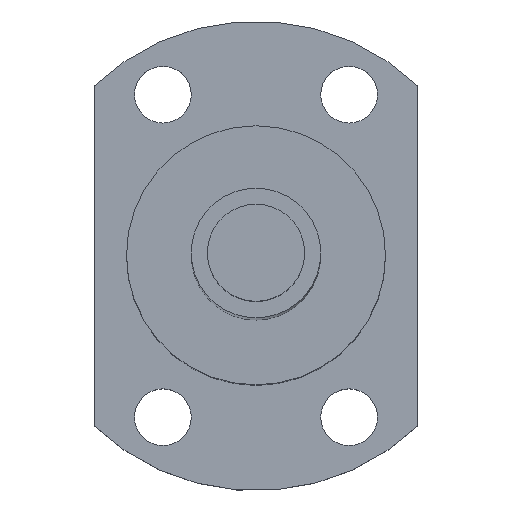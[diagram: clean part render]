
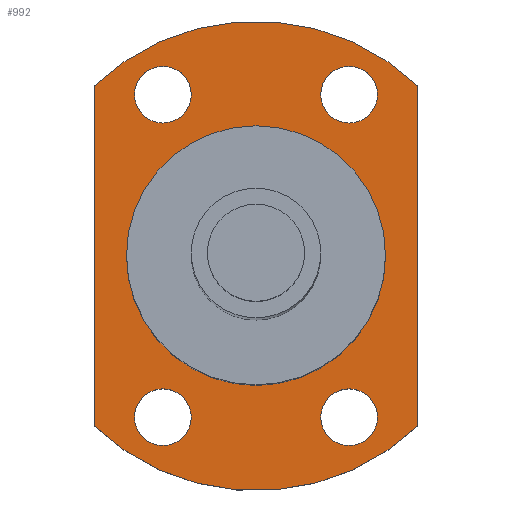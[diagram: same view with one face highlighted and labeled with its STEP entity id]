
A CAD part, top view. The second image highlights one B-rep face of the part: STEP entity #992.
In plain terms, the highlighted planar face has unit normal (0, 0, 1).
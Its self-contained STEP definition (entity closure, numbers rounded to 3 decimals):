
#219=CARTESIAN_POINT('',(5.75,9.959,135.));
#220=DIRECTION('',(0.,0.,-1.));
#221=DIRECTION('',(1.,0.,0.));
#222=AXIS2_PLACEMENT_3D('',#219,#220,#221);
#224=CARTESIAN_POINT('',(5.75,9.959,135.));
#225=DIRECTION('',(0.,0.,-1.));
#226=DIRECTION('',(-1.,0.,0.));
#227=AXIS2_PLACEMENT_3D('',#224,#225,#226);
#229=CARTESIAN_POINT('',(-5.75,9.959,135.));
#230=DIRECTION('',(0.,0.,-1.));
#231=DIRECTION('',(1.,0.,0.));
#232=AXIS2_PLACEMENT_3D('',#229,#230,#231);
#234=CARTESIAN_POINT('',(-5.75,9.959,135.));
#235=DIRECTION('',(0.,0.,-1.));
#236=DIRECTION('',(-1.,0.,0.));
#237=AXIS2_PLACEMENT_3D('',#234,#235,#236);
#239=CARTESIAN_POINT('',(5.75,-9.959,135.));
#240=DIRECTION('',(0.,0.,-1.));
#241=DIRECTION('',(1.,0.,0.));
#242=AXIS2_PLACEMENT_3D('',#239,#240,#241);
#244=CARTESIAN_POINT('',(5.75,-9.959,135.));
#245=DIRECTION('',(0.,0.,-1.));
#246=DIRECTION('',(-1.,0.,0.));
#247=AXIS2_PLACEMENT_3D('',#244,#245,#246);
#249=CARTESIAN_POINT('',(-5.75,-9.959,135.));
#250=DIRECTION('',(0.,0.,-1.));
#251=DIRECTION('',(1.,0.,0.));
#252=AXIS2_PLACEMENT_3D('',#249,#250,#251);
#254=CARTESIAN_POINT('',(-5.75,-9.959,135.));
#255=DIRECTION('',(0.,0.,-1.));
#256=DIRECTION('',(-1.,0.,0.));
#257=AXIS2_PLACEMENT_3D('',#254,#255,#256);
#259=CARTESIAN_POINT('',(0.,0.,135.));
#260=DIRECTION('',(0.,0.,1.));
#261=DIRECTION('',(0.69,0.724,0.));
#262=AXIS2_PLACEMENT_3D('',#259,#260,#261);
#264=DIRECTION('',(0.,1.,0.));
#265=VECTOR('',#264,21.);
#266=CARTESIAN_POINT('',(10.,-10.5,135.));
#267=LINE('',#266,#265);
#268=CARTESIAN_POINT('',(0.,0.,135.));
#269=DIRECTION('',(0.,0.,1.));
#270=DIRECTION('',(-0.69,-0.724,0.));
#271=AXIS2_PLACEMENT_3D('',#268,#269,#270);
#273=DIRECTION('',(0.,-1.,0.));
#274=VECTOR('',#273,21.);
#275=CARTESIAN_POINT('',(-10.,10.5,135.));
#276=LINE('',#275,#274);
#277=CARTESIAN_POINT('',(0.,0.,135.));
#278=DIRECTION('',(0.,0.,1.));
#279=DIRECTION('',(1.,0.,0.));
#280=AXIS2_PLACEMENT_3D('',#277,#278,#279);
#282=CARTESIAN_POINT('',(0.,0.,135.));
#283=DIRECTION('',(0.,0.,1.));
#284=DIRECTION('',(-1.,0.,0.));
#285=AXIS2_PLACEMENT_3D('',#282,#283,#284);
#573=CARTESIAN_POINT('',(7.5,9.959,135.));
#574=CARTESIAN_POINT('',(4.,9.959,135.));
#575=VERTEX_POINT('',#573);
#576=VERTEX_POINT('',#574);
#577=CARTESIAN_POINT('',(-4.,9.959,135.));
#578=CARTESIAN_POINT('',(-7.5,9.959,135.));
#579=VERTEX_POINT('',#577);
#580=VERTEX_POINT('',#578);
#581=CARTESIAN_POINT('',(7.5,-9.959,135.));
#582=CARTESIAN_POINT('',(4.,-9.959,135.));
#583=VERTEX_POINT('',#581);
#584=VERTEX_POINT('',#582);
#585=CARTESIAN_POINT('',(-4.,-9.959,135.));
#586=CARTESIAN_POINT('',(-7.5,-9.959,135.));
#587=VERTEX_POINT('',#585);
#588=VERTEX_POINT('',#586);
#589=CARTESIAN_POINT('',(-10.,10.5,135.));
#590=CARTESIAN_POINT('',(-10.,-10.5,135.));
#591=VERTEX_POINT('',#589);
#592=VERTEX_POINT('',#590);
#593=CARTESIAN_POINT('',(10.,-10.5,135.));
#594=CARTESIAN_POINT('',(10.,10.5,135.));
#595=VERTEX_POINT('',#593);
#596=VERTEX_POINT('',#594);
#605=CARTESIAN_POINT('',(8.,0.,135.));
#606=CARTESIAN_POINT('',(-8.,0.,135.));
#607=VERTEX_POINT('',#605);
#608=VERTEX_POINT('',#606);
#949=CARTESIAN_POINT('',(0.,0.,135.));
#950=DIRECTION('',(0.,0.,1.));
#951=DIRECTION('',(1.,0.,0.));
#952=AXIS2_PLACEMENT_3D('',#949,#950,#951);
#953=PLANE('',#952);
#955=ORIENTED_EDGE('',*,*,#954,.F.);
#957=ORIENTED_EDGE('',*,*,#956,.F.);
#959=ORIENTED_EDGE('',*,*,#958,.F.);
#961=ORIENTED_EDGE('',*,*,#960,.F.);
#962=EDGE_LOOP('',(#955,#957,#959,#961));
#963=FACE_OUTER_BOUND('',#962,.F.);
#964=ORIENTED_EDGE('',*,*,#929,.F.);
#965=ORIENTED_EDGE('',*,*,#943,.F.);
#966=EDGE_LOOP('',(#964,#965));
#967=FACE_BOUND('',#966,.F.);
#969=ORIENTED_EDGE('',*,*,#968,.F.);
#971=ORIENTED_EDGE('',*,*,#970,.F.);
#972=EDGE_LOOP('',(#969,#971));
#973=FACE_BOUND('',#972,.F.);
#975=ORIENTED_EDGE('',*,*,#974,.F.);
#977=ORIENTED_EDGE('',*,*,#976,.F.);
#978=EDGE_LOOP('',(#975,#977));
#979=FACE_BOUND('',#978,.F.);
#981=ORIENTED_EDGE('',*,*,#980,.F.);
#983=ORIENTED_EDGE('',*,*,#982,.F.);
#984=EDGE_LOOP('',(#981,#983));
#985=FACE_BOUND('',#984,.F.);
#987=ORIENTED_EDGE('',*,*,#986,.T.);
#989=ORIENTED_EDGE('',*,*,#988,.T.);
#990=EDGE_LOOP('',(#987,#989));
#991=FACE_BOUND('',#990,.F.);
#992=ADVANCED_FACE('',(#963,#967,#973,#979,#985,#991),#953,.T.);
#223=CIRCLE('',#222,1.75);
#228=CIRCLE('',#227,1.75);
#233=CIRCLE('',#232,1.75);
#238=CIRCLE('',#237,1.75);
#243=CIRCLE('',#242,1.75);
#248=CIRCLE('',#247,1.75);
#253=CIRCLE('',#252,1.75);
#258=CIRCLE('',#257,1.75);
#263=CIRCLE('',#262,14.5);
#272=CIRCLE('',#271,14.5);
#281=CIRCLE('',#280,8.);
#286=CIRCLE('',#285,8.);
#929=EDGE_CURVE('',#575,#576,#223,.T.);
#943=EDGE_CURVE('',#576,#575,#228,.T.);
#954=EDGE_CURVE('',#596,#591,#263,.T.);
#956=EDGE_CURVE('',#595,#596,#267,.T.);
#958=EDGE_CURVE('',#592,#595,#272,.T.);
#960=EDGE_CURVE('',#591,#592,#276,.T.);
#968=EDGE_CURVE('',#579,#580,#233,.T.);
#970=EDGE_CURVE('',#580,#579,#238,.T.);
#974=EDGE_CURVE('',#583,#584,#243,.T.);
#976=EDGE_CURVE('',#584,#583,#248,.T.);
#980=EDGE_CURVE('',#587,#588,#253,.T.);
#982=EDGE_CURVE('',#588,#587,#258,.T.);
#986=EDGE_CURVE('',#607,#608,#281,.T.);
#988=EDGE_CURVE('',#608,#607,#286,.T.);
